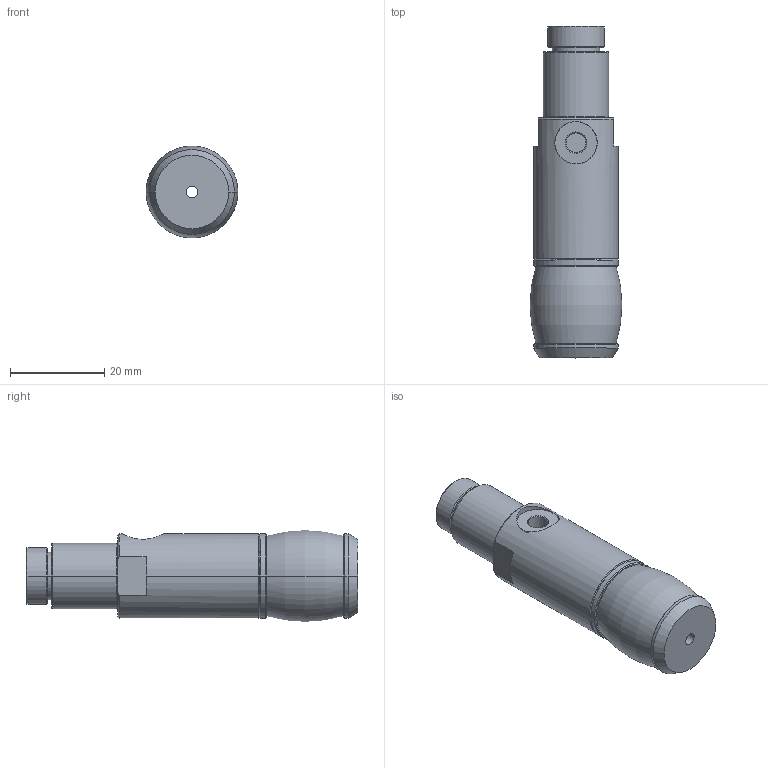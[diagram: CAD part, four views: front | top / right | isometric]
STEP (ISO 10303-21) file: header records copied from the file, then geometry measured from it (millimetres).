
FILE_DESCRIPTION (( 'STEP AP214' ), '1' );
FILE_NAME ('GBD18HD.STEP', '2019-11-13T00:39:33', ( '微软用户' ), ( '微软中国' ), 'SwSTEP 2.0', 'SolidWorks 2016', '' );
FILE_SCHEMA (( 'AUTOMOTIVE_DESIGN' ));
Length unit declared in the file: millimetre
Products named in the file (1): GBD18HD
Bounding box: 19.5 x 70.5 x 19.45 mm (x, y, z)
Volume: 15344.2 mm3; surface area: 5044.1 mm2
Topology: 1 solids, 1 shells, 64 faces, 141 edges, 86 vertices
Faces by surface type: cylinder 24, cone 20, plane 16, torus 4
Entity records: 1940 total; most frequent: CARTESIAN_POINT 452, DIRECTION 336, ORIENTED_EDGE 278, AXIS2_PLACEMENT_3D 143, EDGE_CURVE 139, VERTEX_POINT 85, CIRCLE 78, EDGE_LOOP 76
